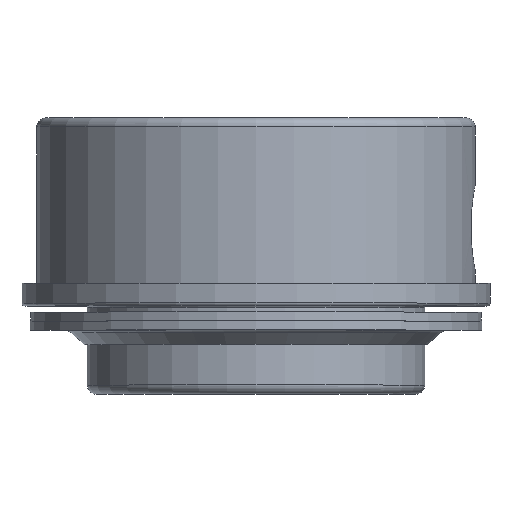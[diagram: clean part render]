
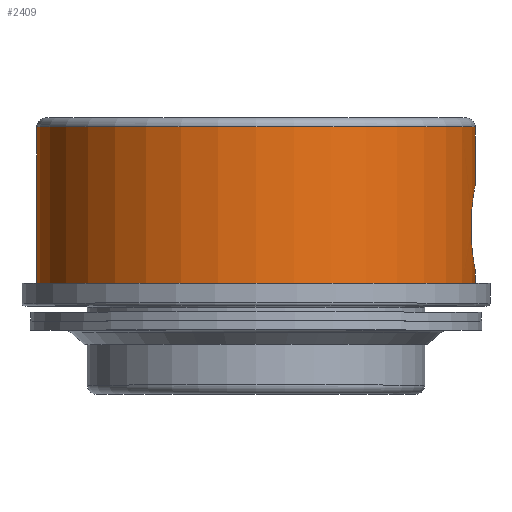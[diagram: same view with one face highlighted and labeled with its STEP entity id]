
A CAD part, top view. The second image highlights one B-rep face of the part: STEP entity #2409.
In plain terms, the highlighted cylindrical face has radius 6.185 mm (diameter 12.37 mm), a partial arc.
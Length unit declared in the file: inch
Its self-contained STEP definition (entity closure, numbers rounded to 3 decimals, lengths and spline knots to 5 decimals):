
#31 = CARTESIAN_POINT ( 'NONE',  ( 0.2435, 0.474, 0. ) ) ;
#92 = VECTOR ( 'NONE', #548, 39.37008 ) ;
#132 = CARTESIAN_POINT ( 'NONE',  ( 0.24326, 0.31647, 0.01224 ) ) ;
#189 = LINE ( 'NONE', #2860, #92 ) ;
#261 = AXIS2_PLACEMENT_3D ( 'NONE', #503, #1854, #3188 ) ;
#365 = ORIENTED_EDGE ( 'NONE', *, *, #3938, .T. ) ;
#431 = EDGE_CURVE ( 'NONE', #5717, #3149, #941, .T. ) ;
#503 = CARTESIAN_POINT ( 'NONE',  ( 0., 0.474, 0. ) ) ;
#548 = DIRECTION ( 'NONE',  ( 0., 1., 0. ) ) ;
#769 = VERTEX_POINT ( 'NONE', #31 ) ;
#789 = EDGE_LOOP ( 'NONE', ( #4903, #2693, #5325, #3233, #365, #1578, #3461 ) ) ;
#941 = CIRCLE ( 'NONE', #2485, 0.2435 ) ;
#965 = VERTEX_POINT ( 'NONE', #3468 ) ;
#1089 = CARTESIAN_POINT ( 'NONE',  ( -0.2435, 0.3, 0. ) ) ;
#1227 = CARTESIAN_POINT ( 'NONE',  ( 0.2435, 0.40875, 0. ) ) ;
#1367 = EDGE_CURVE ( 'NONE', #5717, #1780, #189, .T. ) ;
#1433 = CARTESIAN_POINT ( 'NONE',  ( 0.24184, 0.3246, 0.02872 ) ) ;
#1543 = CARTESIAN_POINT ( 'NONE',  ( 0.2435, 0.3, 0. ) ) ;
#1550 = CARTESIAN_POINT ( 'NONE',  ( 0.23897, 0.362, 0.04675 ) ) ;
#1578 = ORIENTED_EDGE ( 'NONE', *, *, #5733, .T. ) ;
#1580 = VECTOR ( 'NONE', #4354, 39.37008 ) ;
#1624 = DIRECTION ( 'NONE',  ( -1., 0., 0. ) ) ;
#1708 = LINE ( 'NONE', #2567, #1580 ) ;
#1780 = VERTEX_POINT ( 'NONE', #2145 ) ;
#1854 = DIRECTION ( 'NONE',  ( 0., -1., 0. ) ) ;
#1886 = CARTESIAN_POINT ( 'NONE',  ( 0.24006, 0.33845, 0.04084 ) ) ;
#1941 = DIRECTION ( 'NONE',  ( 0., 1., 0. ) ) ;
#2009 = B_SPLINE_CURVE_WITH_KNOTS ( 'NONE', 3,
 ( #1550, #5287, #3879, #3464, #2015, #2506, #2040, #4351, #3916, #1227 ),
 .UNSPECIFIED., .F., .F.,
 ( 4, 2, 2, 2, 4 ),
 ( 0.00372, 0.00419, 0.00465, 0.00512, 0.00558 ),
 .UNSPECIFIED. ) ;
#2015 = CARTESIAN_POINT ( 'NONE',  ( 0.24065, 0.39073, 0.03738 ) ) ;
#2040 = CARTESIAN_POINT ( 'NONE',  ( 0.24242, 0.40282, 0.0236 ) ) ;
#2145 = CARTESIAN_POINT ( 'NONE',  ( -0.2435, 0.474, 0. ) ) ;
#2180 = EDGE_CURVE ( 'NONE', #3609, #5585, #2009, .T. ) ;
#2366 = CARTESIAN_POINT ( 'NONE',  ( 0.23897, 0.35589, 0.04675 ) ) ;
#2397 = CARTESIAN_POINT ( 'NONE',  ( 0.2435, 0.31525, 0.00611 ) ) ;
#2409 = ADVANCED_FACE ( 'NONE', ( #5795 ), #3598, .T. ) ;
#2485 = AXIS2_PLACEMENT_3D ( 'NONE', #3923, #4334, #1624 ) ;
#2506 = CARTESIAN_POINT ( 'NONE',  ( 0.24183, 0.39936, 0.02876 ) ) ;
#2567 = CARTESIAN_POINT ( 'NONE',  ( 0.2435, 0.484, 0. ) ) ;
#2637 = LINE ( 'NONE', #2724, #4053 ) ;
#2693 = ORIENTED_EDGE ( 'NONE', *, *, #4530, .T. ) ;
#2724 = CARTESIAN_POINT ( 'NONE',  ( 0.2435, 0.484, 0. ) ) ;
#2860 = CARTESIAN_POINT ( 'NONE',  ( -0.2435, 0.484, 0. ) ) ;
#3041 = B_SPLINE_CURVE_WITH_KNOTS ( 'NONE', 3,
 ( #3252, #2397, #132, #4145, #1433, #3279, #1886, #3771, #2366, #5129 ),
 .UNSPECIFIED., .F., .F.,
 ( 4, 2, 2, 2, 4 ),
 ( 0.00186, 0.00233, 0.00279, 0.00326, 0.00372 ),
 .UNSPECIFIED. ) ;
#3149 = VERTEX_POINT ( 'NONE', #1543 ) ;
#3188 = DIRECTION ( 'NONE',  ( 1., 0., 0. ) ) ;
#3219 = AXIS2_PLACEMENT_3D ( 'NONE', #3684, #1941, #4175 ) ;
#3233 = ORIENTED_EDGE ( 'NONE', *, *, #2180, .T. ) ;
#3252 = CARTESIAN_POINT ( 'NONE',  ( 0.2435, 0.31525, 0. ) ) ;
#3279 = CARTESIAN_POINT ( 'NONE',  ( 0.24065, 0.3333, 0.03741 ) ) ;
#3461 = ORIENTED_EDGE ( 'NONE', *, *, #1367, .F. ) ;
#3464 = CARTESIAN_POINT ( 'NONE',  ( 0.24006, 0.38553, 0.04085 ) ) ;
#3468 = CARTESIAN_POINT ( 'NONE',  ( 0.2435, 0.31525, 0. ) ) ;
#3598 = CYLINDRICAL_SURFACE ( 'NONE', #3219, 0.2435 ) ;
#3609 = VERTEX_POINT ( 'NONE', #5047 ) ;
#3684 = CARTESIAN_POINT ( 'NONE',  ( 0., 0.484, 0. ) ) ;
#3771 = CARTESIAN_POINT ( 'NONE',  ( 0.23922, 0.34975, 0.04553 ) ) ;
#3841 = EDGE_CURVE ( 'NONE', #965, #3609, #3041, .T. ) ;
#3879 = CARTESIAN_POINT ( 'NONE',  ( 0.23922, 0.37428, 0.04552 ) ) ;
#3916 = CARTESIAN_POINT ( 'NONE',  ( 0.2435, 0.40875, 0.00618 ) ) ;
#3923 = CARTESIAN_POINT ( 'NONE',  ( 0., 0.3, 0. ) ) ;
#3938 = EDGE_CURVE ( 'NONE', #5585, #769, #2637, .T. ) ;
#4028 = DIRECTION ( 'NONE',  ( 0., 1., 0. ) ) ;
#4053 = VECTOR ( 'NONE', #4028, 39.37008 ) ;
#4145 = CARTESIAN_POINT ( 'NONE',  ( 0.24242, 0.32117, 0.02358 ) ) ;
#4175 = DIRECTION ( 'NONE',  ( -1., 0., 0. ) ) ;
#4334 = DIRECTION ( 'NONE',  ( 0., 1., 0. ) ) ;
#4351 = CARTESIAN_POINT ( 'NONE',  ( 0.24326, 0.40753, 0.01226 ) ) ;
#4354 = DIRECTION ( 'NONE',  ( 0., 1., 0. ) ) ;
#4530 = EDGE_CURVE ( 'NONE', #3149, #965, #1708, .T. ) ;
#4903 = ORIENTED_EDGE ( 'NONE', *, *, #431, .T. ) ;
#5047 = CARTESIAN_POINT ( 'NONE',  ( 0.23897, 0.362, 0.04675 ) ) ;
#5129 = CARTESIAN_POINT ( 'NONE',  ( 0.23897, 0.362, 0.04675 ) ) ;
#5287 = CARTESIAN_POINT ( 'NONE',  ( 0.23897, 0.36811, 0.04675 ) ) ;
#5325 = ORIENTED_EDGE ( 'NONE', *, *, #3841, .T. ) ;
#5379 = CARTESIAN_POINT ( 'NONE',  ( 0.2435, 0.40875, 0. ) ) ;
#5585 = VERTEX_POINT ( 'NONE', #5379 ) ;
#5717 = VERTEX_POINT ( 'NONE', #1089 ) ;
#5733 = EDGE_CURVE ( 'NONE', #769, #1780, #5740, .T. ) ;
#5740 = CIRCLE ( 'NONE', #261, 0.2435 ) ;
#5795 = FACE_OUTER_BOUND ( 'NONE', #789, .T. ) ;
